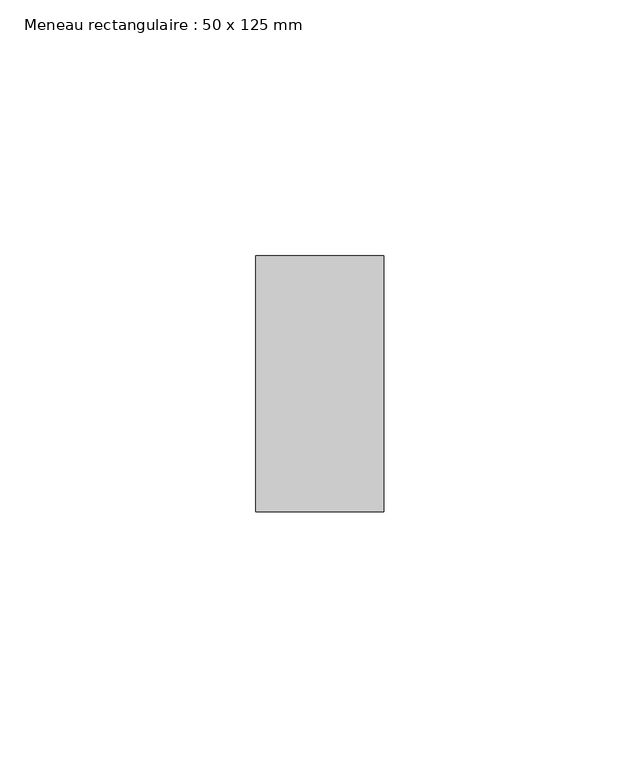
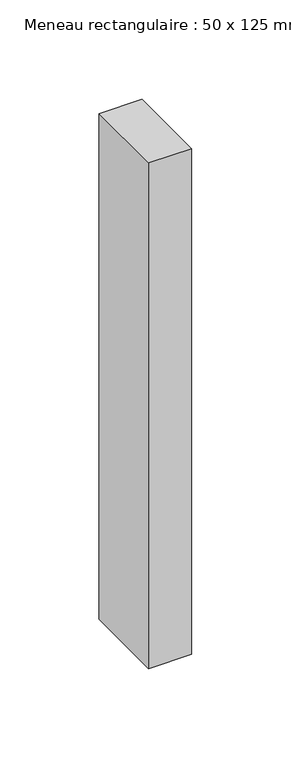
"""IFC4 building model written with IfcOpenShell, lengths in millimetres: member geometry, Meneau rectangulaire : 50 x 125 mm."""

from ifc_helpers import new_model, si_unit, frame, origin, place, context, project, spatial, polyline, outline, extrude, source, transform, mapped, element, save


def meneau_rectangulaire_50_x_125_mm_4fc8337e(model_context):
    return source(origin(), model_context, "Body", "SweptSolid", [
        extrude(outline(polyline([(0.0, 0.0), (0.0, -50.0), (-25.0, -50.0), (-25.0, 0.0), (0.0, 0.0)])), frame((0.0, 0.0, -311.0), z_axis=(0.0, 0.0, 1.0), x_axis=(1.0, 0.0, 0.0)), (0.0, 0.0, 1.0), 311.0),
    ])


if __name__ == "__main__":
    model = new_model("IFC4")
    model_context = context("Model", 3, world=origin())
    ifc_project = project(units=[si_unit("LENGTHUNIT", "METRE", prefix="MILLI")], contexts=[model_context])
    site = spatial("IfcSite", under=ifc_project)
    building = spatial("IfcBuilding", under=site)
    placement = place(None, origin())
    meneau_rectangulaire_50_x_125_mm_shape = meneau_rectangulaire_50_x_125_mm_4fc8337e(model_context)
    element("IfcMember", 1, ObjectType="Meneau rectangulaire : 50 x 125 mm", at=placement, inside=building, context=model_context, shape_type="MappedRepresentation", body=[
        mapped(meneau_rectangulaire_50_x_125_mm_shape, transform((0.0, 0.0, 0.0), x_axis=(1.0, 0.0, 0.0), y_axis=(0.0, 1.0, 0.0), z_axis=(0.0, 0.0, 1.0))),
    ])
    save(model, "model.ifc")
